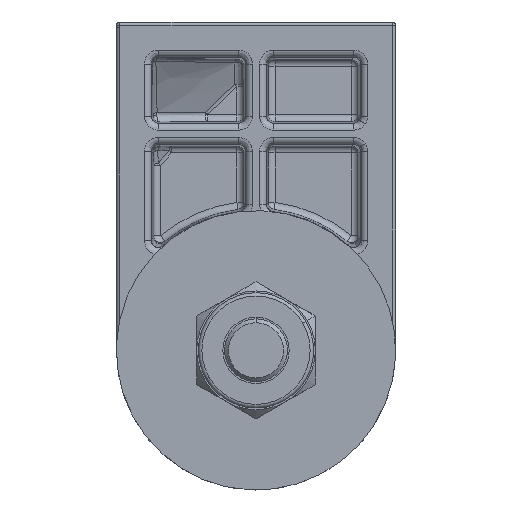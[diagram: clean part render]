
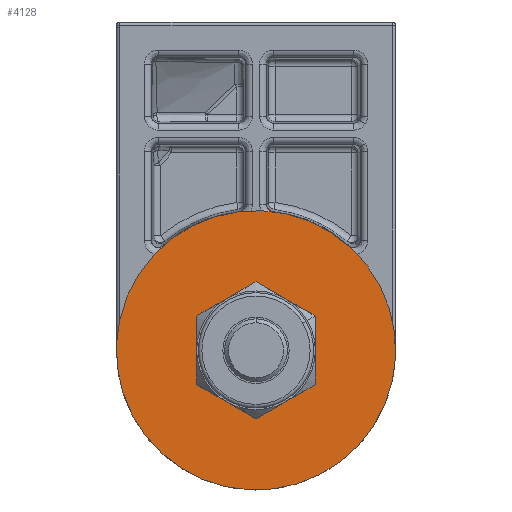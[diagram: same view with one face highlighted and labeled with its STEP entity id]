
A CAD part, front view. The second image highlights one B-rep face of the part: STEP entity #4128.
In plain terms, the highlighted planar face has unit normal (0, -1, 0) as drawn and (0, 0, 1) by its records, which use the part's own axes.
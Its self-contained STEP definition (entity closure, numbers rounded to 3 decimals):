
#314 = DIRECTION ( 'NONE',  ( 1., 0., 0. ) ) ;
#683 = EDGE_CURVE ( 'NONE', #15887, #14717, #8536, .T. ) ;
#710 = VERTEX_POINT ( 'NONE', #14388 ) ;
#1110 = CARTESIAN_POINT ( 'NONE',  ( 0., 0., 0. ) ) ;
#1862 = CARTESIAN_POINT ( 'NONE',  ( -20., 0., 0. ) ) ;
#3786 = CARTESIAN_POINT ( 'NONE',  ( 0., 0., 0. ) ) ;
#3913 = CARTESIAN_POINT ( 'NONE',  ( -5.05, 0., 0. ) ) ;
#3949 = EDGE_CURVE ( 'NONE', #15043, #710, #9948, .T. ) ;
#4128 = ADVANCED_FACE ( 'NONE', ( #5984, #10173 ), #9069, .T. ) ;
#4320 = AXIS2_PLACEMENT_3D ( 'NONE', #3786, #14766, #5390 ) ;
#4725 = DIRECTION ( 'NONE',  ( 1., 0., 0. ) ) ;
#4810 = DIRECTION ( 'NONE',  ( 0., 0., 1. ) ) ;
#5390 = DIRECTION ( 'NONE',  ( 1., 0., 0. ) ) ;
#5873 = CARTESIAN_POINT ( 'NONE',  ( 5.05, 0., 0. ) ) ;
#5921 = AXIS2_PLACEMENT_3D ( 'NONE', #1110, #16524, #8448 ) ;
#5984 = FACE_BOUND ( 'NONE', #17229, .T. ) ;
#6044 = AXIS2_PLACEMENT_3D ( 'NONE', #6670, #15966, #314 ) ;
#6620 = AXIS2_PLACEMENT_3D ( 'NONE', #19073, #16861, #4725 ) ;
#6670 = CARTESIAN_POINT ( 'NONE',  ( 0., 0., 0. ) ) ;
#7114 = AXIS2_PLACEMENT_3D ( 'NONE', #14203, #4810, #15781 ) ;
#7120 = CIRCLE ( 'NONE', #7114, 20. ) ;
#7819 = CIRCLE ( 'NONE', #4320, 5.05 ) ;
#7892 = EDGE_CURVE ( 'NONE', #710, #15043, #7120, .T. ) ;
#8448 = DIRECTION ( 'NONE',  ( 1., 0., 0. ) ) ;
#8536 = CIRCLE ( 'NONE', #6044, 5.05 ) ;
#8661 = ORIENTED_EDGE ( 'NONE', *, *, #7892, .T. ) ;
#9069 = PLANE ( 'NONE',  #6620 ) ;
#9948 = CIRCLE ( 'NONE', #5921, 20. ) ;
#10173 = FACE_OUTER_BOUND ( 'NONE', #19673, .T. ) ;
#11542 = ORIENTED_EDGE ( 'NONE', *, *, #3949, .T. ) ;
#14088 = ORIENTED_EDGE ( 'NONE', *, *, #15817, .F. ) ;
#14203 = CARTESIAN_POINT ( 'NONE',  ( 0., 0., 0. ) ) ;
#14388 = CARTESIAN_POINT ( 'NONE',  ( 20., 0., 0. ) ) ;
#14717 = VERTEX_POINT ( 'NONE', #5873 ) ;
#14766 = DIRECTION ( 'NONE',  ( 0., 0., 1. ) ) ;
#15043 = VERTEX_POINT ( 'NONE', #1862 ) ;
#15781 = DIRECTION ( 'NONE',  ( 1., 0., 0. ) ) ;
#15817 = EDGE_CURVE ( 'NONE', #14717, #15887, #7819, .T. ) ;
#15887 = VERTEX_POINT ( 'NONE', #3913 ) ;
#15966 = DIRECTION ( 'NONE',  ( 0., 0., 1. ) ) ;
#16040 = ORIENTED_EDGE ( 'NONE', *, *, #683, .F. ) ;
#16524 = DIRECTION ( 'NONE',  ( 0., 0., 1. ) ) ;
#16861 = DIRECTION ( 'NONE',  ( 0., 0., 1. ) ) ;
#17229 = EDGE_LOOP ( 'NONE', ( #14088, #16040 ) ) ;
#19073 = CARTESIAN_POINT ( 'NONE',  ( 0., 0., 0. ) ) ;
#19673 = EDGE_LOOP ( 'NONE', ( #8661, #11542 ) ) ;
